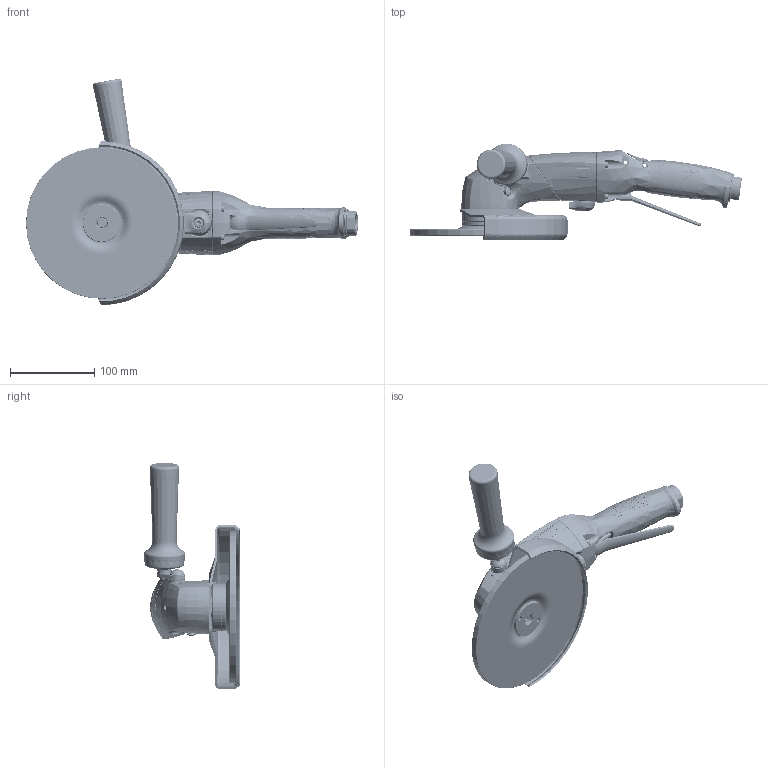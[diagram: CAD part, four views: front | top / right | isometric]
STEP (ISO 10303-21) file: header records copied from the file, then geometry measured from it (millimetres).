
FILE_DESCRIPTION((''),'2;1');
FILE_NAME('6151704890_ASM','2011-09-21T',('GREds'),(''),'PRO/ENGINEER BY PARAMETRIC TECHNOLOGY CORPORATION, 2010330','PRO/ENGINEER BY PARAMETRIC TECHNOLOGY CORPORATION, 2010330','');
FILE_SCHEMA(('AUTOMOTIVE_DESIGN_CC2 { 1 2 10303 214 -1 1 5 2 }'));
Products named in the file (40): 6155653890; 4090070400; 6153932910_ASM; 6156811120; 6153121100; 6153974060_ASM; 4150190700_SPEC1; 4150190760_ASM; 4150190780_ASM; 6153932900_ASM; 6153150430; 6153210830; 6153212140; 6157901350; 6157460740; 744-08; 6153900570_ASM; 6156160480; 6155042112; 6156160660; 6159901942; 6159901940_ASM; 6155031640; MEULE_ISO603_14_TYPE27_D180; 6155020852; 6156161290; 6156900440_AF0; 6155020850_ASM; 6155840630; 6155840620; 6156140910; 6155760660; 6159901970; 6156110400; 6158713840; 6158713850; 6158713860; 6158727910; 6158728700; 6151704890_ASM
Assembly tree (44 placements, depth 5):
  6151704890_ASM
    6153932900_ASM
      6153932910_ASM
        6155653890
        4090070400
      6153974060_ASM
        6156811120
        6153121100
      4150190780_ASM
        4150190760_ASM
          4150190700_SPEC1
    6153900570_ASM
      6153150430
      6153210830
      6153212140
      6157901350
      6157460740
      744-08
    6156160480  x4
    6155042112
    6156160660  x3
    6159901940_ASM
      6159901942
    6155031640
    MEULE_ISO603_14_TYPE27_D180
    6155020850_ASM
      6155020852
      6156161290
      6156900440_AF0
    6155840630
    6155840620
    6156140910
    6155760660
    6159901970
    6156110400
    6158713840
    6158713850
    6158713860
    6158727910
    6158728700
Bounding box: 394.52 x 114.51 x 268.94 mm (x, y, z)
Volume: 766072.5 mm3; surface area: 308998.1 mm2
Topology: 36 solids, 57 shells, 8955 faces, 23900 edges, 15618 vertices
Faces by surface type: extrusion 3665, plane 2828, bspline 1281, cylinder 605, cone 310, torus 201, sphere 65
Entity records: 416118 total; most frequent: CARTESIAN_POINT 188625, ORIENTED_EDGE 47254, DIRECTION 23812, EDGE_CURVE 23668, B_SPLINE_CURVE_WITH_KNOTS 17251, VERTEX_POINT 15498, VECTOR 11754, EDGE_LOOP 9597
